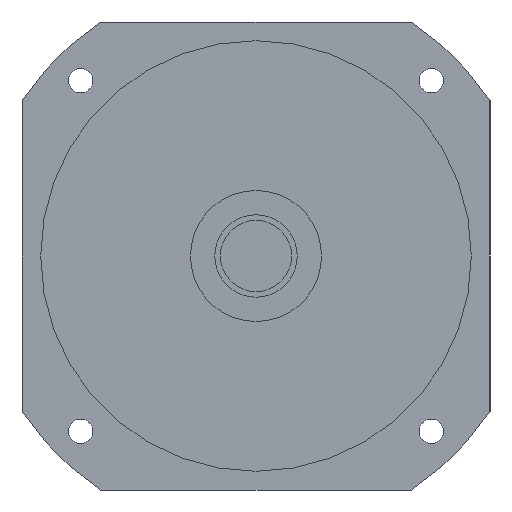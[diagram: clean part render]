
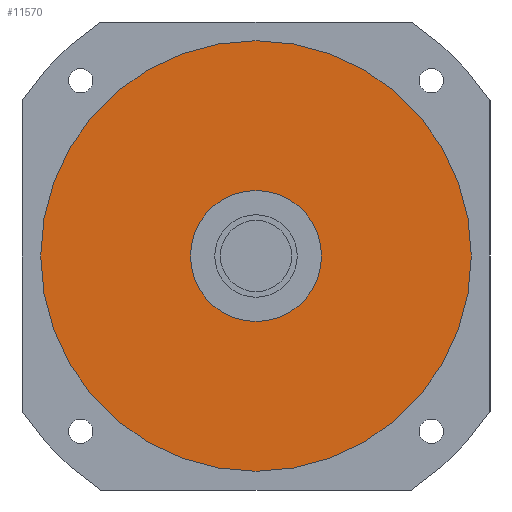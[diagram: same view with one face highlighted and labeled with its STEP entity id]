
A CAD part, left-side view. The second image highlights one B-rep face of the part: STEP entity #11570.
In plain terms, the highlighted planar face has unit normal (-1, 0, 0) as drawn and (0, 0, -1) by its records, which use the part's own axes.
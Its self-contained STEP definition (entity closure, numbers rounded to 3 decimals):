
#11010=CARTESIAN_POINT('',(-35.,0.,-80.2));
#11020=VERTEX_POINT('',#11010);
#11050=CARTESIAN_POINT('',(0.,0.,
-80.2));
#11060=DIRECTION('',(0.,0.,1.));
#11070=DIRECTION('',(0.,1.,0.));
#11080=AXIS2_PLACEMENT_3D('',#11050,#11060,#11070);
#11090=CIRCLE('',#11080,35.);
#11100=CARTESIAN_POINT('',(35.,0.,-80.2));
#11110=VERTEX_POINT('',#11100);
#11120=EDGE_CURVE('',#11020,#11110,#11090,.T.);
#11240=CARTESIAN_POINT('',(0.,0.,
-80.2));
#11250=DIRECTION('',(0.,0.,1.));
#11260=DIRECTION('',(-1.,0.,0.));
#11270=AXIS2_PLACEMENT_3D('',#11240,#11250,#11260);
#11280=PLANE('',#11270);
#11290=ORIENTED_EDGE('',*,*,#11120,.T.);
#11300=CARTESIAN_POINT('',(0.,35.,-80.2));
#11310=VERTEX_POINT('',#11300);
#11320=EDGE_CURVE('',#11310,#11020,#11090,.T.);
#11330=ORIENTED_EDGE('',*,*,#11320,.T.);
#11340=EDGE_CURVE('',#11110,#11310,#11090,.T.);
#11350=ORIENTED_EDGE('',*,*,#11340,.T.);
#11360=EDGE_LOOP('',(#11350,#11330,#11290));
#11370=FACE_BOUND('',#11360,.T.);
#11380=CARTESIAN_POINT('',(0.,0.,
-80.2));
#11390=DIRECTION('',(0.,0.,1.));
#11400=DIRECTION('',(0.,1.,0.));
#11410=AXIS2_PLACEMENT_3D('',#11380,#11390,#11400);
#11420=CIRCLE('',#11410,115.);
#11430=CARTESIAN_POINT('',(0.,115.,-80.2));
#11440=VERTEX_POINT('',#11430);
#11450=CARTESIAN_POINT('',(-115.,0.,-80.2));
#11460=VERTEX_POINT('',#11450);
#11470=EDGE_CURVE('',#11440,#11460,#11420,.T.);
#11480=ORIENTED_EDGE('',*,*,#11470,.F.);
#11490=CARTESIAN_POINT('',(115.,0.,-80.2));
#11500=VERTEX_POINT('',#11490);
#11510=EDGE_CURVE('',#11460,#11500,#11420,.T.);
#11520=ORIENTED_EDGE('',*,*,#11510,.F.);
#11530=EDGE_CURVE('',#11500,#11440,#11420,.T.);
#11540=ORIENTED_EDGE('',*,*,#11530,.F.);
#11550=EDGE_LOOP('',(#11540,#11520,#11480));
#11560=FACE_OUTER_BOUND('',#11550,.T.);
#11570=ADVANCED_FACE('',(#11370,#11560),#11280,.F.);
